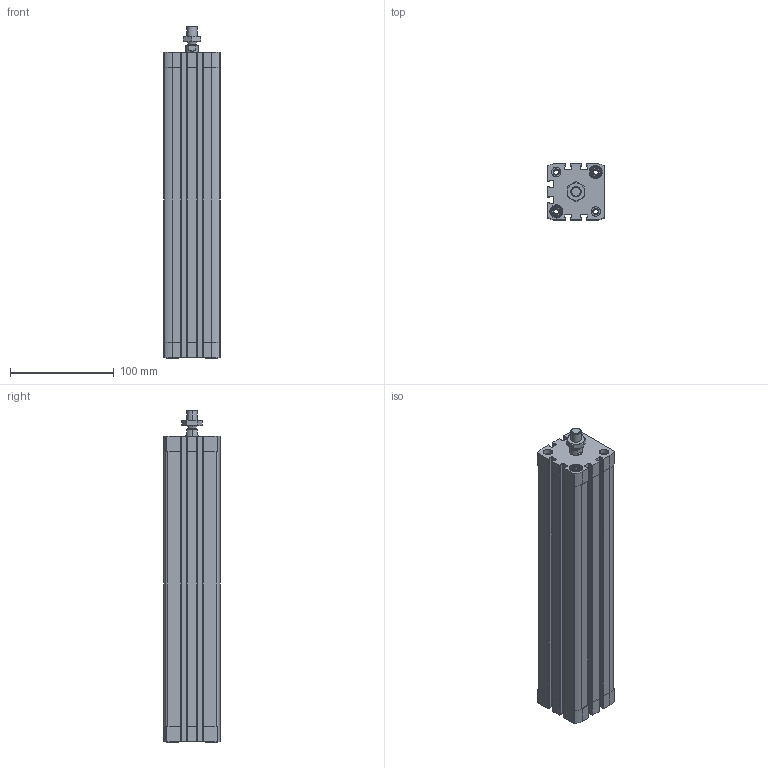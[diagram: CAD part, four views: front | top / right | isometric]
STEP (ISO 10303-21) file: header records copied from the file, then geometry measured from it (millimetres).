
FILE_DESCRIPTION (( 'STEP AP203' ), '1' );
FILE_NAME ('CCN40-250M.STEP', '2017-04-03T15:08:23', ( '' ), ( '' ), 'SwSTEP 2.0', 'SolidWorks 2016', '' );
FILE_SCHEMA (( 'CONFIG_CONTROL_DESIGN' ));
Length unit declared in the file: millimetre
Products named in the file (4): CCN-250----(Z); CCN-250_(KS); _DIN-439-B - M10x1.25(F); CCN40-250M
Assembly tree (3 placements, depth 2):
  CCN40-250M
    CCN-250----(Z)
    CCN-250_(KS)
    _DIN-439-B - M10x1.25(F)
Bounding box: 54.5 x 54.5 x 320.1 mm (x, y, z)
Volume: 477692.8 mm3; surface area: 164636.5 mm2
Topology: 3 solids, 3 shells, 499 faces, 1332 edges, 870 vertices
Faces by surface type: plane 275, cylinder 172, cone 48, bspline 4
Entity records: 16226 total; most frequent: CARTESIAN_POINT 3115, DIRECTION 2716, ORIENTED_EDGE 2664, EDGE_CURVE 1332, AXIS2_PLACEMENT_3D 995, VERTEX_POINT 870, LINE 726, VECTOR 726
